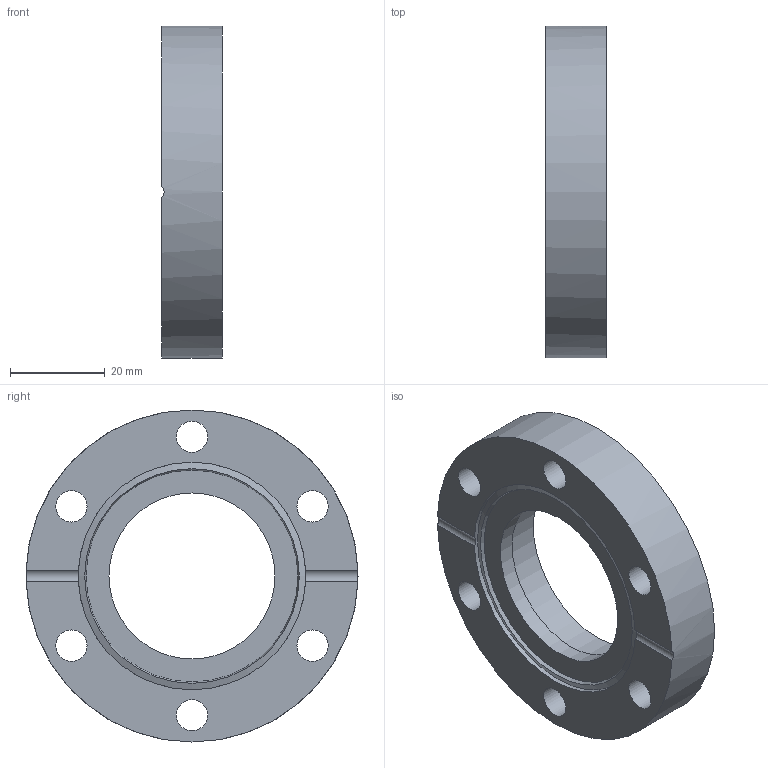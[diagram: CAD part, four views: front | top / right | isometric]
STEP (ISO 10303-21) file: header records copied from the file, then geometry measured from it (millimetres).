
FILE_DESCRIPTION( ( 'Unknown' ), '1' );
FILE_NAME( 'X:/Daten ( aktueller Bestand )/Projekte und Zeichnungen/Solid Edge/STP-Dateien/CF-Teile/7512F34.stp', 'Unknown', ( 'Unknown' ), ( 'Unknown' ), 'PSStep 14.0', 'Unknown', ' ' );
FILE_SCHEMA( ( 'AUTOMOTIVE_DESIGN { 1 0 10303 214 1 1 1 1 }' ) );
Length unit declared in the file: millimetre
Products named in the file (2): Assem1; 1_0
Assembly tree (1 placements, depth 2):
  Assem1
    1_0
Bounding box: 12.7 x 70 x 70 mm (x, y, z)
Volume: 31604.1 mm3; surface area: 11314 mm2
Topology: 1 solids, 1 shells, 19 faces, 52 edges, 36 vertices
Faces by surface type: cylinder 12, plane 5, cone 2
Full cylindrical faces by diameter (mm): 6.6 x6, 35 x1, 38.2 x1, 48 x1, 70 x1
Entity records: 752 total; most frequent: CARTESIAN_POINT 133, DIRECTION 94, ORIENTED_EDGE 64, EDGE_LOOP 46, AXIS2_PLACEMENT_3D 45, EDGE_CURVE 32, FACE_OUTER_BOUND 29, VERTEX_POINT 28
